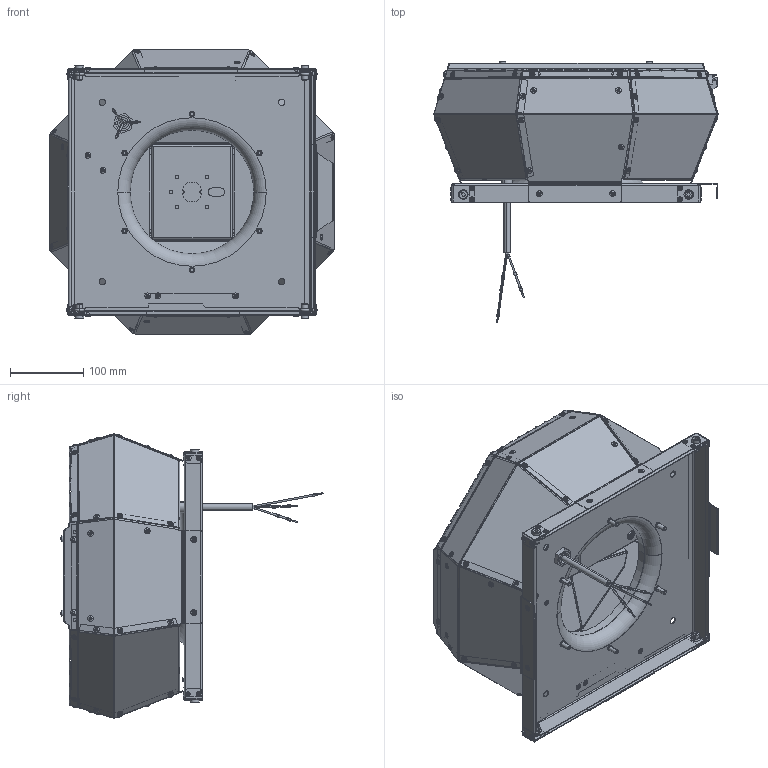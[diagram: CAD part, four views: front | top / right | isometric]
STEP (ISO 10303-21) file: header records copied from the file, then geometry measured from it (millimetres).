
FILE_DESCRIPTION (( 'STEP AP203' ), '1' );
FILE_NAME ('139330-00_DVA250E4P31.STEP', '2017-03-31T08:05:52', ( '' ), ( '' ), 'SwSTEP 2.0', 'SolidWorks 2012', '' );
FILE_SCHEMA (( 'CONFIG_CONTROL_DESIGN' ));
Products named in the file (1): 139330-00_DVA250E4P31
Bounding box: 388.45 x 357.99 x 388.42 mm (x, y, z)
Surface area: 1116535.2 mm2 (no closed solid volume)
Topology: 0 solids, 220 shells, 2706 faces, 8691 edges, 5919 vertices
Faces by surface type: plane 1503, cylinder 765, torus 326, bspline 76, cone 36
Entity records: 98000 total; most frequent: CARTESIAN_POINT 21550, DIRECTION 16166, ORIENTED_EDGE 13783, EDGE_CURVE 8691, VERTEX_POINT 5919, AXIS2_PLACEMENT_3D 5418, LINE 5330, VECTOR 5330
